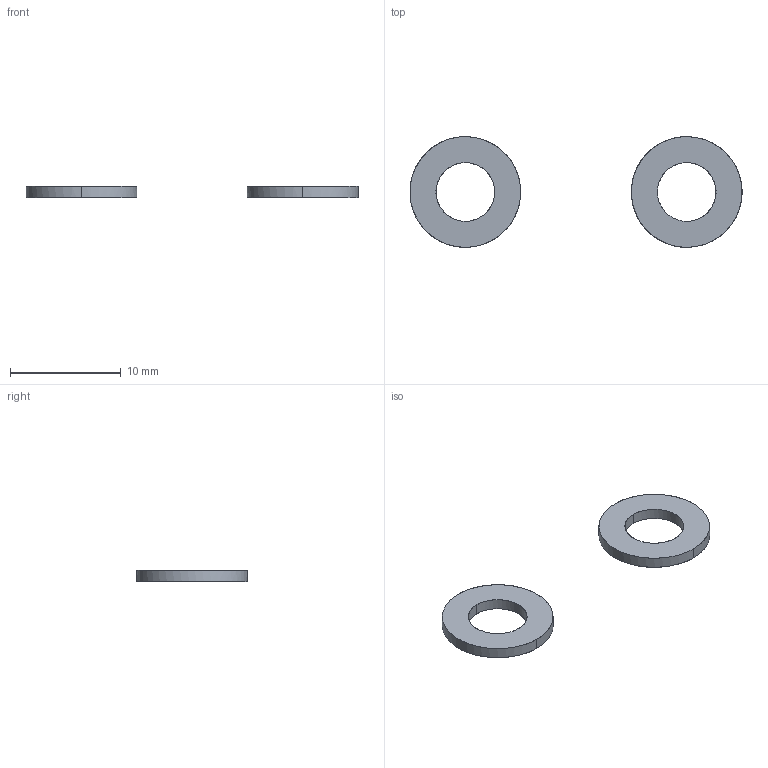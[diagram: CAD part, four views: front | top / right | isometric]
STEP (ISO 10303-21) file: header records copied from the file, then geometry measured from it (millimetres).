
FILE_DESCRIPTION(/* description */ (''),/* implementation_level */ '2;1');
FILE_NAME(/* name */ '7.x-cart#7.7#PWF5',/* time_stamp */ '2014-12-01T20:17:44+01:00',/* author */ (''),/* organization */ (''),/* preprocessor_version */ 'ST-DEVELOPER v14',/* originating_system */ '',/* authorisation */ '');
FILE_SCHEMA (('AUTOMOTIVE_DESIGN'));
Length unit declared in the file: millimetre
Products named in the file (2): Document; washer DIN125-like, form A, M5
Assembly tree (2 placements, depth 2):
  Document
    washer DIN125-like, form A, M5  x2
Bounding box: 29.99 x 10 x 1 mm (x, y, z)
Surface area: 322.5 mm2 (no closed solid volume)
Topology: 0 solids, 12 shells, 12 faces, 40 edges, 40 vertices
Faces by surface type: bspline 8, plane 4
Entity records: 551 total; most frequent: CARTESIAN_POINT 259, B_SPLINE_CURVE_WITH_KNOTS 24, ORIENTED_EDGE 20, PCURVE 20, DEFINITIONAL_REPRESENTATION 20, SURFACE_CURVE 20, EDGE_CURVE 20, VERTEX_POINT 20
